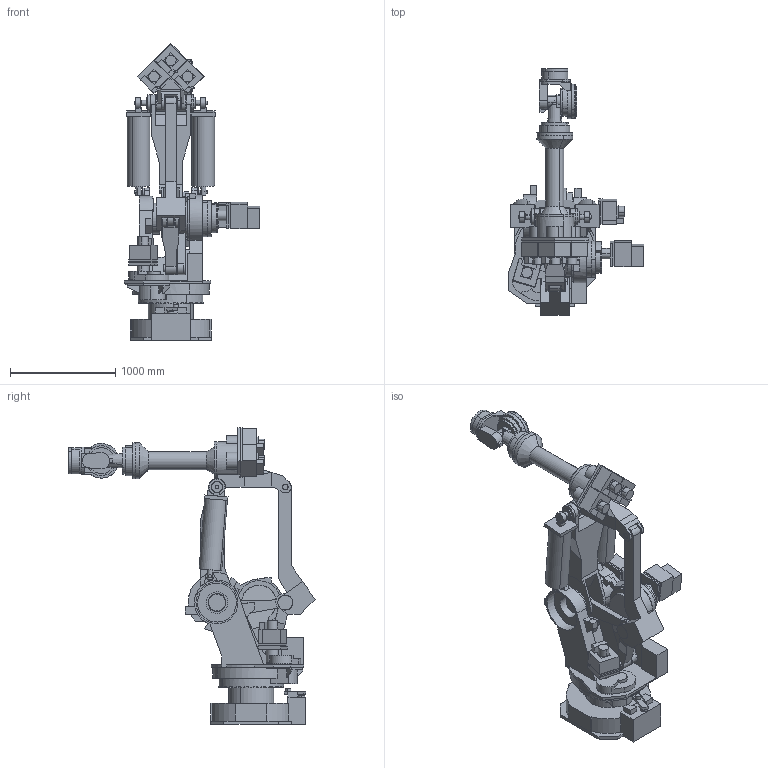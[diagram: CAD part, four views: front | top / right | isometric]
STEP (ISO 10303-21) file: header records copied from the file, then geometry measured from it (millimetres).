
FILE_DESCRIPTION(('CATIA V5 STEP Exchange'),'2;1');
FILE_NAME('F:\☆新しいフォルダ\【K-ROSET】\K-ROSET_モデル\ロボット\※ヤスナ様依頼分データ確認\_MX700N_簡素化\MX700N catiaASSY.stp','2015-09-11T07:40:57+00:00',('none'),('none'),'Version 5-6 Release 2012','CATIA V5 STEP AP203','none');
FILE_SCHEMA(('CONFIG_CONTROL_DESIGN'));
Length unit declared in the file: millimetre
Products named in the file (1): MX700N catiaASSY
Assembly tree (11 placements, depth 2):
  MX700N catiaASSY
    #57
    #1816
    #15044
    #19162
    #19809
    #20971
    #22553
    #22657
    #24249
    #25116
    #25970
Bounding box: 1292.7 x 2344.34 x 2826.06 mm (x, y, z)
Surface area: 17760797.8 mm2 (no closed solid volume)
Topology: 0 solids, 14 shells, 1046 faces, 2804 edges, 1880 vertices
Faces by surface type: plane 711, cylinder 317, cone 14, bspline 4
Entity records: 31485 total; most frequent: CARTESIAN_POINT 6316, ORIENTED_EDGE 5608, DIRECTION 4261, EDGE_CURVE 2804, VECTOR 1884, LINE 1884, VERTEX_POINT 1880, AXIS2_PLACEMENT_3D 1616
